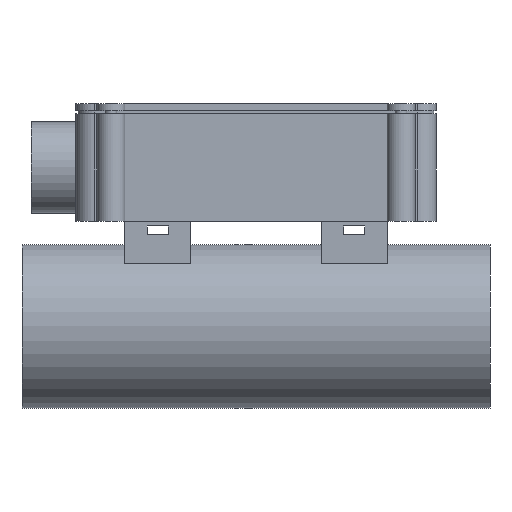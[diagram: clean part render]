
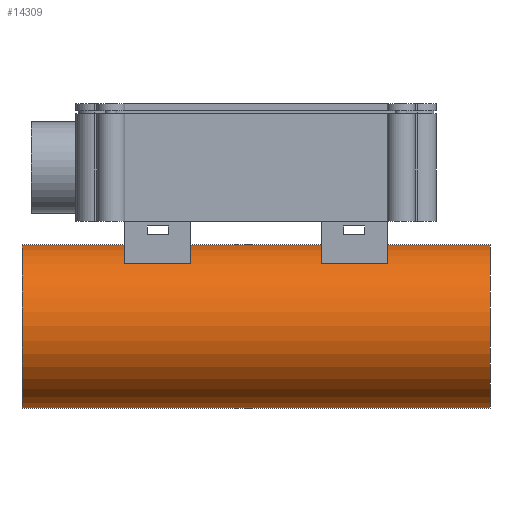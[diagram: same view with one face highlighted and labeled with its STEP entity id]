
A CAD part, front view. The second image highlights one B-rep face of the part: STEP entity #14309.
In plain terms, the highlighted cylindrical face has radius 34.925 mm (diameter 69.85 mm), a full revolution.
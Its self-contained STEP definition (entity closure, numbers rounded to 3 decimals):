
#14309 = ADVANCED_FACE('',(#14310),#14323,.T.);
#14310 = FACE_BOUND('',#14311,.T.);
#14311 = EDGE_LOOP('',(#14312,#14346,#14369,#14396));
#14312 = ORIENTED_EDGE('',*,*,#14313,.F.);
#14313 = EDGE_CURVE('',#14314,#14314,#14316,.T.);
#14314 = VERTEX_POINT('',#14315);
#14315 = CARTESIAN_POINT('',(100.,0.,-10.));
#14316 = SURFACE_CURVE('',#14317,(#14322,#14334),.PCURVE_S1.);
#14317 = CIRCLE('',#14318,34.925);
#14318 = AXIS2_PLACEMENT_3D('',#14319,#14320,#14321);
#14319 = CARTESIAN_POINT('',(100.,0.,-44.925));
#14320 = DIRECTION('',(1.,0.,0.));
#14321 = DIRECTION('',(-0.,0.,1.));
#14322 = PCURVE('',#14323,#14328);
#14323 = CYLINDRICAL_SURFACE('',#14324,34.925);
#14324 = AXIS2_PLACEMENT_3D('',#14325,#14326,#14327);
#14325 = CARTESIAN_POINT('',(-100.,0.,-44.925));
#14326 = DIRECTION('',(1.,0.,0.));
#14327 = DIRECTION('',(-0.,0.,1.));
#14328 = DEFINITIONAL_REPRESENTATION('',(#14329),#14333);
#14329 = LINE('',#14330,#14331);
#14330 = CARTESIAN_POINT('',(0.,200.));
#14331 = VECTOR('',#14332,1.);
#14332 = DIRECTION('',(1.,0.));
#14333 = ( GEOMETRIC_REPRESENTATION_CONTEXT(2) 
PARAMETRIC_REPRESENTATION_CONTEXT() REPRESENTATION_CONTEXT('2D SPACE',''
  ) );
#14334 = PCURVE('',#14335,#14340);
#14335 = PLANE('',#14336);
#14336 = AXIS2_PLACEMENT_3D('',#14337,#14338,#14339);
#14337 = CARTESIAN_POINT('',(100.,0.,-44.925));
#14338 = DIRECTION('',(1.,0.,0.));
#14339 = DIRECTION('',(-0.,0.,1.));
#14340 = DEFINITIONAL_REPRESENTATION('',(#14341),#14345);
#14341 = CIRCLE('',#14342,34.925);
#14342 = AXIS2_PLACEMENT_2D('',#14343,#14344);
#14343 = CARTESIAN_POINT('',(0.,0.));
#14344 = DIRECTION('',(1.,0.));
#14345 = ( GEOMETRIC_REPRESENTATION_CONTEXT(2) 
PARAMETRIC_REPRESENTATION_CONTEXT() REPRESENTATION_CONTEXT('2D SPACE',''
  ) );
#14346 = ORIENTED_EDGE('',*,*,#14347,.F.);
#14347 = EDGE_CURVE('',#14348,#14314,#14350,.T.);
#14348 = VERTEX_POINT('',#14349);
#14349 = CARTESIAN_POINT('',(-100.,0.,-10.));
#14350 = SEAM_CURVE('',#14351,(#14355,#14362),.PCURVE_S1.);
#14351 = LINE('',#14352,#14353);
#14352 = CARTESIAN_POINT('',(-100.,0.,-10.));
#14353 = VECTOR('',#14354,1.);
#14354 = DIRECTION('',(1.,0.,0.));
#14355 = PCURVE('',#14323,#14356);
#14356 = DEFINITIONAL_REPRESENTATION('',(#14357),#14361);
#14357 = LINE('',#14358,#14359);
#14358 = CARTESIAN_POINT('',(6.283,-0.));
#14359 = VECTOR('',#14360,1.);
#14360 = DIRECTION('',(0.,1.));
#14361 = ( GEOMETRIC_REPRESENTATION_CONTEXT(2) 
PARAMETRIC_REPRESENTATION_CONTEXT() REPRESENTATION_CONTEXT('2D SPACE',''
  ) );
#14362 = PCURVE('',#14323,#14363);
#14363 = DEFINITIONAL_REPRESENTATION('',(#14364),#14368);
#14364 = LINE('',#14365,#14366);
#14365 = CARTESIAN_POINT('',(0.,-0.));
#14366 = VECTOR('',#14367,1.);
#14367 = DIRECTION('',(0.,1.));
#14368 = ( GEOMETRIC_REPRESENTATION_CONTEXT(2) 
PARAMETRIC_REPRESENTATION_CONTEXT() REPRESENTATION_CONTEXT('2D SPACE',''
  ) );
#14369 = ORIENTED_EDGE('',*,*,#14370,.T.);
#14370 = EDGE_CURVE('',#14348,#14348,#14371,.T.);
#14371 = SURFACE_CURVE('',#14372,(#14377,#14384),.PCURVE_S1.);
#14372 = CIRCLE('',#14373,34.925);
#14373 = AXIS2_PLACEMENT_3D('',#14374,#14375,#14376);
#14374 = CARTESIAN_POINT('',(-100.,0.,-44.925));
#14375 = DIRECTION('',(1.,0.,0.));
#14376 = DIRECTION('',(-0.,0.,1.));
#14377 = PCURVE('',#14323,#14378);
#14378 = DEFINITIONAL_REPRESENTATION('',(#14379),#14383);
#14379 = LINE('',#14380,#14381);
#14380 = CARTESIAN_POINT('',(0.,0.));
#14381 = VECTOR('',#14382,1.);
#14382 = DIRECTION('',(1.,0.));
#14383 = ( GEOMETRIC_REPRESENTATION_CONTEXT(2) 
PARAMETRIC_REPRESENTATION_CONTEXT() REPRESENTATION_CONTEXT('2D SPACE',''
  ) );
#14384 = PCURVE('',#14385,#14390);
#14385 = PLANE('',#14386);
#14386 = AXIS2_PLACEMENT_3D('',#14387,#14388,#14389);
#14387 = CARTESIAN_POINT('',(-100.,0.,-44.925));
#14388 = DIRECTION('',(1.,0.,0.));
#14389 = DIRECTION('',(-0.,0.,1.));
#14390 = DEFINITIONAL_REPRESENTATION('',(#14391),#14395);
#14391 = CIRCLE('',#14392,34.925);
#14392 = AXIS2_PLACEMENT_2D('',#14393,#14394);
#14393 = CARTESIAN_POINT('',(0.,0.));
#14394 = DIRECTION('',(1.,0.));
#14395 = ( GEOMETRIC_REPRESENTATION_CONTEXT(2) 
PARAMETRIC_REPRESENTATION_CONTEXT() REPRESENTATION_CONTEXT('2D SPACE',''
  ) );
#14396 = ORIENTED_EDGE('',*,*,#14347,.T.);
